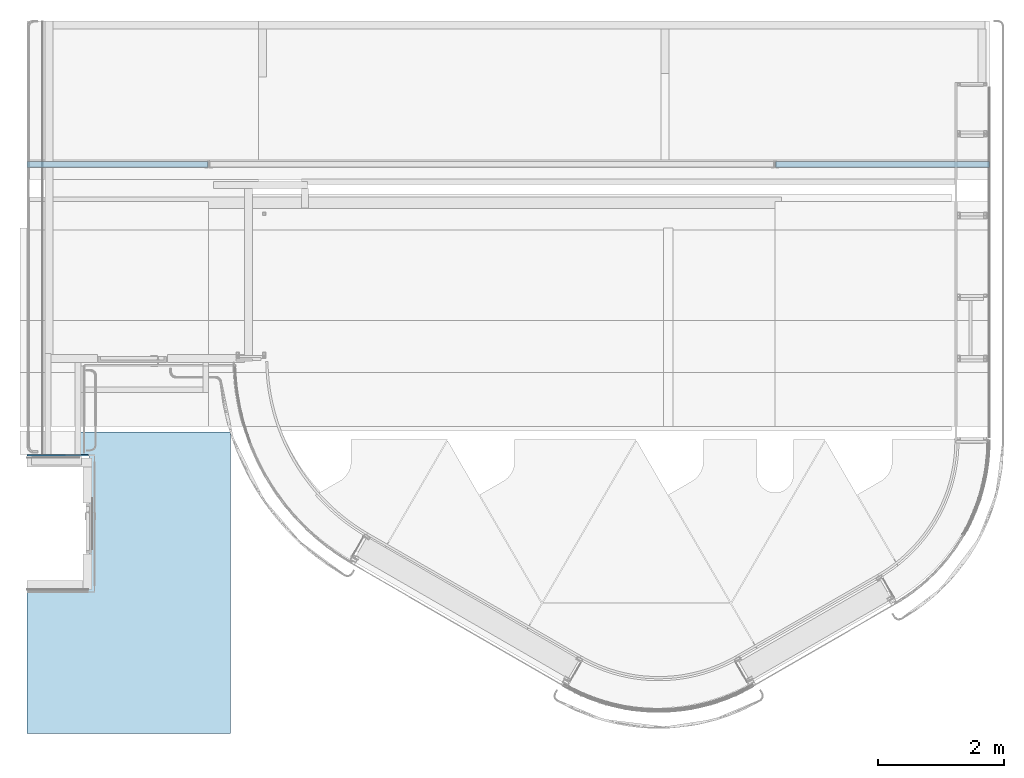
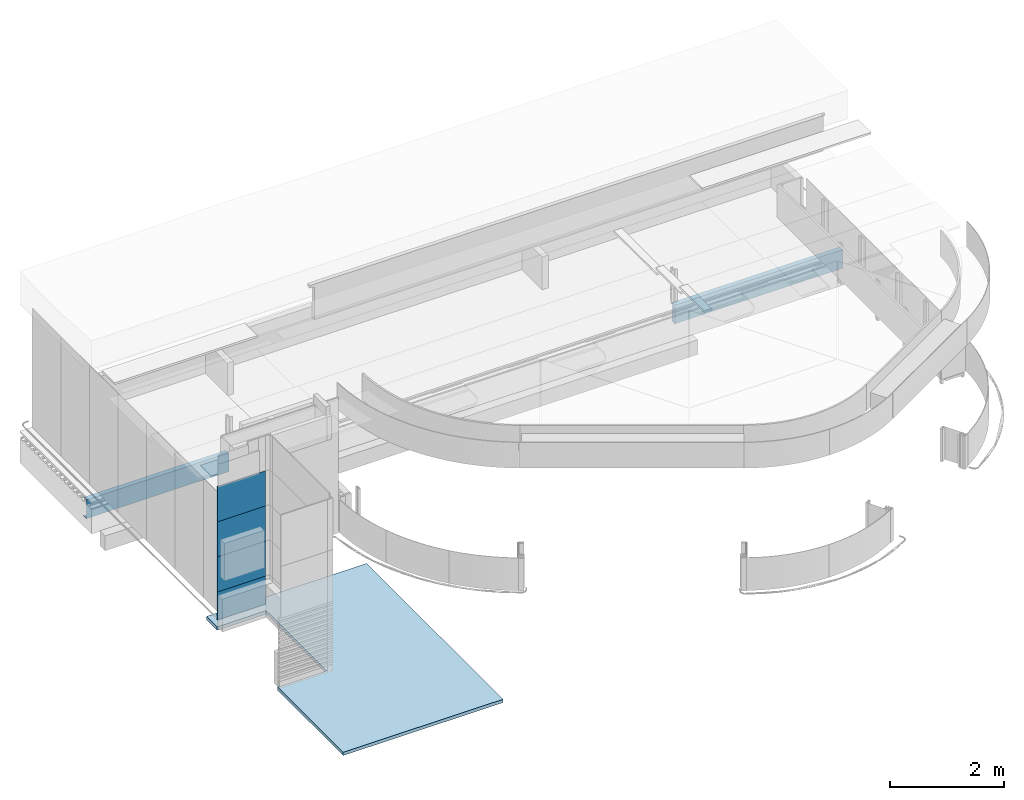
# One storey, part 12 of 18: 4 plates, 2 beams, 1 slab, 1 element without a shape of its own.
"""IFC2X3 building model written with IfcOpenShell, lengths in millimetres."""

import ifcopenshell
import ifcopenshell.guid

model = None  # the IFC model being written
_history = None  # IfcOwnerHistory: only IFC2X3 demands one
_inside = {}  # id of a spatial element -> (the spatial element, [elements in it])
_under = {}  # id of a project, library or spatial element -> (it, [spatial elements below it])
_declared = {}  # id of a project -> (the project, [libraries it declares])
_typed = {}  # id of a type object -> (the type object, [elements of that type])
_made_of = {}  # id of a material, layer set ... -> (it, [elements and type objects made of it])


def new_model(schema):
    """Start an empty IFC model of exactly this schema.

    Asked for "IFC4X3", IfcOpenShell would pick the latest addendum, in which some entities
    have other attributes; the version numbers below select the first issue.
    IFC2X3 requires an IfcOwnerHistory on every rooted entity: one is made here for all.
    """
    global model, _history
    if schema == "IFC4X3":
        model = ifcopenshell.file(schema_version=(4, 3, 0, 0))
    else:
        model = ifcopenshell.file(schema=schema)
    _inside.clear()
    _under.clear()
    _declared.clear()
    _typed.clear()
    _made_of.clear()
    _history = None
    if model.schema == "IFC2X3":
        org = make("IfcOrganization", Name="unknown")
        user = make(
            "IfcPersonAndOrganization",
            ThePerson=make("IfcPerson", FamilyName="unknown"),
            TheOrganization=org,
        )
        app = make(
            "IfcApplication",
            ApplicationDeveloper=org,
            Version="unknown",
            ApplicationFullName="unknown",
            ApplicationIdentifier="unknown",
        )
        _history = make(
            "IfcOwnerHistory",
            OwningUser=user,
            OwningApplication=app,
            ChangeAction="ADDED",
            CreationDate=0,
        )
    return model


def make(cls, **values):
    """One entity of the class cls with the attributes given. An attribute that is None is left unset."""
    return model.create_entity(
        cls, **{name: value for name, value in values.items() if value is not None}
    )


def entity(cls, *values):
    """Any entity or typed value of the class cls, its attributes in the order of the schema. None: left unset."""
    e = model.create_entity(cls)
    for i, value in enumerate(values):
        if value is not None:
            e[i] = value
    return e


def rooted(cls, **values):
    """An entity with a GlobalId (a new one), such as an element, a storey or a relation."""
    return make(cls, GlobalId=ifcopenshell.guid.new(), OwnerHistory=_history, **values)


def si_unit(unit_type, name, prefix=None):
    """IfcSIUnit, for example si_unit("LENGTHUNIT", "METRE", prefix="MILLI")."""
    return make("IfcSIUnit", UnitType=unit_type, Prefix=prefix, Name=name)


def converted_unit(unit_type, name, factor, base, dimensions=None, offset=None):
    """IfcConversionBasedUnit, such as the inch: factor (a typed value) times the base unit."""
    return make(
        "IfcConversionBasedUnit"
        if offset is None
        else "IfcConversionBasedUnitWithOffset",
        ConversionOffset=offset,
        Dimensions=None
        if dimensions is None
        else entity("IfcDimensionalExponents", *dimensions),
        UnitType=unit_type,
        Name=name,
        ConversionFactor=make(
            "IfcMeasureWithUnit", ValueComponent=factor, UnitComponent=base
        ),
    )


def derived_unit(unit_type, elements):
    """IfcDerivedUnit: a product of units, each with its exponent."""
    return make(
        "IfcDerivedUnit",
        Elements=[
            make("IfcDerivedUnitElement", Unit=unit, Exponent=power)
            for unit, power in elements
        ],
        UnitType=unit_type,
    )


def assignment(units):
    """IfcUnitAssignment: the units of a project."""
    return None if units is None else make("IfcUnitAssignment", Units=units)


def point(xyz):
    """IfcCartesianPoint."""
    return None if xyz is None else make("IfcCartesianPoint", Coordinates=xyz)


def direction(xyz):
    """IfcDirection."""
    return None if xyz is None else make("IfcDirection", DirectionRatios=xyz)


def frame(location, z_axis=None, x_axis=None):
    """IfcAxis2Placement3D, a coordinate frame: its origin and axes. An axis left out is left unset."""
    return make(
        "IfcAxis2Placement3D",
        Location=point(location),
        Axis=direction(z_axis),
        RefDirection=direction(x_axis),
    )


def origin_with_axes():
    """The frame at (0, 0, 0) with the z axis (0, 0, 1) and the x axis (1, 0, 0) written out."""
    return frame((0.0, 0.0, 0.0), z_axis=(0.0, 0.0, 1.0), x_axis=(1.0, 0.0, 0.0))


def place(relative_to, where):
    """IfcLocalPlacement: puts the frame where relative to a parent placement (None: the world)."""
    return make(
        "IfcLocalPlacement", PlacementRelTo=relative_to, RelativePlacement=where
    )


def context(
    kind, dimensions, precision=None, world=None, true_north=None, identifier=None
):
    """IfcGeometricRepresentationContext, for example the 3D "Model" context."""
    return make(
        "IfcGeometricRepresentationContext",
        ContextIdentifier=identifier,
        ContextType=kind,
        CoordinateSpaceDimension=dimensions,
        Precision=precision,
        WorldCoordinateSystem=world,
        TrueNorth=true_north,
    )


def subcontext(parent, identifier, kind, view, scale=None):
    """IfcGeometricRepresentationSubContext, for example "Body" below "Model"."""
    return make(
        "IfcGeometricRepresentationSubContext",
        ContextIdentifier=identifier,
        ContextType=kind,
        ParentContext=parent,
        TargetScale=scale,
        TargetView=view,
    )


def project(units=None, contexts=None):
    """IfcProject with its units and contexts."""
    return rooted(
        "IfcProject",
        Name="project",
        RepresentationContexts=contexts,
        UnitsInContext=assignment(units),
    )


def spatial(cls, under=None, at=None, **own):
    """A site, building, storey or space (cls), placed at a placement, below another one or the project."""
    s = rooted(cls, ObjectPlacement=at, **own)
    if under is not None:
        _under.setdefault(under.id(), (under, []))[1].append(s)
    return s


def faces_of(points, faces, orient=None, outer=None):
    """IfcFace entities. A face is a list of loops; a loop is a list of indices into points, from 0.

    orient and outer hold one flag for each loop. By default every Orientation is true, the
    first loop of a face is its IfcFaceOuterBound and the others are IfcFaceBound.
    """
    made = []
    for i, loops in enumerate(faces):
        bounds = []
        for j, loop in enumerate(loops):
            is_outer = j == 0 if outer is None else outer[i][j]
            bounds.append(
                make(
                    "IfcFaceOuterBound" if is_outer else "IfcFaceBound",
                    Bound=make("IfcPolyLoop", Polygon=[points[k] for k in loop]),
                    Orientation=True if orient is None else orient[i][j],
                )
            )
        made.append(make("IfcFace", Bounds=bounds))
    return made


def faceted_brep(points, faces, orient=None, outer=None, voids=None):
    """IfcFacetedBrep: a solid bounded by flat faces; with voids (closed shells), ...WithVoids."""
    shared = [point(p) for p in points]
    hull = make("IfcClosedShell", CfsFaces=faces_of(shared, faces, orient, outer))
    if voids is None:
        return make("IfcFacetedBrep", Outer=hull)
    return make(
        "IfcFacetedBrepWithVoids",
        Outer=hull,
        Voids=[
            make(cls, CfsFaces=faces_of(shared, fs, o, b)) for cls, fs, o, b in voids
        ],
    )


def shape(context_of_items, identifier, shape_type, items):
    """IfcShapeRepresentation: the items that make up one representation, for example the "Body"."""
    return make(
        "IfcShapeRepresentation",
        ContextOfItems=context_of_items,
        RepresentationIdentifier=identifier,
        RepresentationType=shape_type,
        Items=items,
    )


def material(Name=None, Category=None):
    """IfcMaterial."""
    return make("IfcMaterial", Name=Name, Category=Category)


def material_list(materials):
    """IfcMaterialList."""
    return make("IfcMaterialList", Materials=materials)


def layer(
    of_material, thickness, ventilated=None, Name=None, Category=None, Priority=None
):
    """IfcMaterialLayer: one layer of a wall or slab, of a material (None: an air gap)."""
    return make(
        "IfcMaterialLayer",
        Material=of_material,
        LayerThickness=thickness,
        IsVentilated=ventilated,
        Name=Name,
        Category=Category,
        Priority=Priority,
    )


def layer_set(layers, Name=None):
    """IfcMaterialLayerSet."""
    return make("IfcMaterialLayerSet", MaterialLayers=layers, LayerSetName=Name)


def made_of(thing, what):
    """Note that an element or type object is made of a material, layer set ...; save() writes the relation."""
    if what is not None:
        _made_of.setdefault(what.id(), (what, []))[1].append(thing)
    return thing


def type_object(cls, material=None, **own):
    """A type object (cls), such as IfcWallType, which elements share."""
    return made_of(rooted(cls, **own), material)


def element(
    cls,
    number,
    at=None,
    inside=None,
    cuts=None,
    type_object=None,
    material=None,
    context=None,
    identifier="Body",
    shape_type=None,
    held_by="IfcProductDefinitionShape",
    body=None,
    shapes=None,
    **own,
):
    """One element of the class cls, such as IfcWall. Its Tag is "e" and its number.

    at: its placement. inside: the storey or other place that contains it. cuts: it is an
    opening in that element (IfcRelVoidsElement). A single representation is given by context,
    identifier, shape_type and body (its items); several are given by shapes. held_by: the class
    of the entity that holds the representations. save() writes the other relations.
    """
    e = rooted(cls, Tag="e%d" % number, ObjectPlacement=at, **own)
    if body is not None:
        shapes = [shape(context, identifier, shape_type, body)]
    if shapes is not None:
        e.Representation = make(held_by, Representations=shapes)
    if inside is not None:
        _inside.setdefault(inside.id(), (inside, []))[1].append(e)
    if cuts is not None:
        rooted(
            "IfcRelVoidsElement", RelatingBuildingElement=cuts, RelatedOpeningElement=e
        )
    if type_object is not None:
        _typed.setdefault(type_object.id(), (type_object, []))[1].append(e)
    return made_of(e, material)


def aggregate(whole, parts):
    """IfcRelAggregates: a whole, such as a stair, and the parts it consists of."""
    return rooted("IfcRelAggregates", RelatingObject=whole, RelatedObjects=parts)


def save(model, path):
    """Write the relations noted so far, then the file.

    IfcRelAggregates (storeys below a building ...), IfcRelContainedInSpatialStructure (elements
    in a storey), IfcRelDefinesByType, IfcRelAssociatesMaterial and IfcRelDeclares: one each for
    every whole, place, type object, material and project.
    """
    for whole, parts in _under.values():
        aggregate(whole, parts)
    for where, things in _inside.values():
        rooted(
            "IfcRelContainedInSpatialStructure",
            RelatedElements=things,
            RelatingStructure=where,
        )
    for kind, things in _typed.values():
        rooted("IfcRelDefinesByType", RelatedObjects=things, RelatingType=kind)
    for what, things in _made_of.values():
        rooted("IfcRelAssociatesMaterial", RelatedObjects=things, RelatingMaterial=what)
    for by, libraries in _declared.values():
        rooted("IfcRelDeclares", RelatingContext=by, RelatedDefinitions=libraries)
    model.write(path)


model = new_model("IFC2X3")

# Units and contexts
model_context = context("Model", 3, precision=0.01, world=frame((0.0, 4.29681676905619e-09, 0.0)), true_north=direction((4.01073788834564e-13, 1.0)))
plan_context = context("Plan", 3, precision=0.01, world=frame((0.0, 4.29681676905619e-09, 0.0)), true_north=direction((4.01073788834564e-13, 1.0)))
body_context = subcontext(model_context, "Body", "Model", "MODEL_VIEW")
axis_context = subcontext(model_context, "Axis", "Model", "GRAPH_VIEW")
ifc_project = project(units=[converted_unit("PLANEANGLEUNIT", "DEGREE", entity("IfcPositiveLengthMeasure", 0.0174532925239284), si_unit("PLANEANGLEUNIT", "RADIAN"), dimensions=[0, 0, 0, 0, 0, 0, 0]), si_unit("AREAUNIT", "SQUARE_METRE"), si_unit("LENGTHUNIT", "METRE", prefix="MILLI"), si_unit("MASSUNIT", "GRAM", prefix="KILO"), si_unit("POWERUNIT", "WATT"), si_unit("PRESSUREUNIT", "PASCAL"), si_unit("FORCEUNIT", "NEWTON", prefix="KILO"), si_unit("ELECTRICVOLTAGEUNIT", "VOLT"), si_unit("ELECTRICCURRENTUNIT", "AMPERE"), si_unit("THERMODYNAMICTEMPERATUREUNIT", "DEGREE_CELSIUS"), si_unit("TIMEUNIT", "SECOND"), si_unit("VOLUMEUNIT", "CUBIC_METRE"), derived_unit("LINEARVELOCITYUNIT", [(si_unit("LENGTHUNIT", "METRE"), 1), (si_unit("TIMEUNIT", "SECOND"), -1)]), derived_unit("VOLUMETRICFLOWRATEUNIT", [(si_unit("VOLUMEUNIT", "CUBIC_METRE"), 1), (si_unit("TIMEUNIT", "SECOND"), -1)]), derived_unit("THERMALTRANSMITTANCEUNIT", [(si_unit("POWERUNIT", "WATT"), 1), (si_unit("THERMODYNAMICTEMPERATUREUNIT", "KELVIN"), -1), (si_unit("AREAUNIT", "SQUARE_METRE"), -1)]), derived_unit("SOUNDPRESSUREUNIT", [(si_unit("PRESSUREUNIT", "PASCAL"), 1)])], contexts=[model_context, plan_context])

# Site, building, storey
site_placement = place(None, origin_with_axes())
site = spatial("IfcSite", under=ifc_project, at=site_placement, Name="ENGM", CompositionType="ELEMENT")
building_placement = place(site_placement, origin_with_axes())
building = spatial("IfcBuilding", under=site, at=building_placement, Name="TH", CompositionType="ELEMENT")
storey_placement = place(building_placement, frame((0.0, 0.0, 210200.0), z_axis=(0.0, 0.0, 1.0), x_axis=(1.0, 0.0, 0.0)))
storey = spatial("IfcBuildingStorey", under=building, at=storey_placement, Name="Nivå F - 0,7 m", CompositionType="ELEMENT", Elevation=210200.0)

# Beams
ifc_material_1 = material(Name="<Unnamed>")
ifc_material_2 = material(Name="_NSW Stål")
ifc_material_list = material_list([ifc_material_1, ifc_material_2])
beam_type = type_object("IfcBeamType", Name="B223 - Bjelke - eks. pir fasade:B223 - 400x100x8", PredefinedType="BEAM", material=ifc_material_list)
beam_1_placement = place(storey_placement, frame((893499.999999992, 485076.76249997, -260.0), z_axis=(0.0, 0.0, 1.0), x_axis=(-1.0, 0.0, 0.0)))
element("IfcBeam", 1, at=beam_1_placement, inside=storey, type_object=beam_type, Name="B223 - Bjelke - eks. pir fasade:B223 - 400x100x8", ObjectType="B223 - Bjelke - eks. pir fasade:B223 - 400x100x8", context=axis_context, shape_type="Brep", body=[
    faceted_brep([(-4490.0, -50.0, 192.0), (-4482.0, -50.0, 192.0), (-4482.0, -50.0, -192.0), (-4490.0, -50.0, -192.0), (-4482.0, 31.9999999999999, -192.0), (-4490.0, 31.9999999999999, -192.0), (-4482.0, 33.5643446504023, -191.876883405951), (-4490.0, 33.5643446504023, -191.876883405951), (-4482.0, 35.0901699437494, -191.510565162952), (-4490.0, 35.0901699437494, -191.510565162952), (-4482.0, 36.5399049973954, -190.910065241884), (-4490.0, 36.5399049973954, -190.910065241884), (-4482.0, 37.8778525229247, -190.090169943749), (-4490.0, 37.8778525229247, -190.090169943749), (-4482.0, 39.0710678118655, -189.071067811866), (-4490.0, 39.0710678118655, -189.071067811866), (-4482.0, 40.0901699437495, -187.877852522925), (-4490.0, 40.0901699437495, -187.877852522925), (-4482.0, 40.9100652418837, -186.539904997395), (-4490.0, 40.9100652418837, -186.539904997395), (-4482.0, 41.5105651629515, -185.090169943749), (-4490.0, 41.5105651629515, -185.090169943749), (-4482.0, 41.8768834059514, -183.564344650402), (-4490.0, 41.8768834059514, -183.564344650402), (-4482.0, 42.0, -182.0), (-4490.0, 42.0, -182.0), (-4482.0, 42.0, 182.0), (-4490.0, 42.0, 182.0), (-4482.0, 41.8768834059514, 183.564344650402), (-4490.0, 41.8768834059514, 183.564344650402), (-4482.0, 41.5105651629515, 185.09016994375), (-4490.0, 41.5105651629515, 185.09016994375), (-4482.0, 40.9100652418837, 186.539904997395), (-4490.0, 40.9100652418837, 186.539904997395), (-4482.0, 40.0901699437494, 187.877852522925), (-4490.0, 40.0901699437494, 187.877852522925), (-4482.0, 39.0710678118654, 189.071067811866), (-4490.0, 39.0710678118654, 189.071067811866), (-4482.0, 37.8778525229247, 190.09016994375), (-4490.0, 37.8778525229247, 190.09016994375), (-4482.0, 36.5399049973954, 190.910065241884), (-4490.0, 36.5399049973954, 190.910065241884), (-4482.0, 35.0901699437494, 191.510565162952), (-4490.0, 35.0901699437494, 191.510565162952), (-4482.0, 33.5643446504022, 191.876883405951), (-4490.0, 33.5643446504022, 191.876883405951), (-4482.0, 32.0, 192.0), (-4490.0, 32.0, 192.0)], [[[0, 1, 2, 3]], [[3, 2, 4, 5]], [[5, 4, 6, 7]], [[7, 6, 8, 9]], [[9, 8, 10, 11]], [[11, 10, 12, 13]], [[13, 12, 14, 15]], [[15, 14, 16, 17]], [[17, 16, 18, 19]], [[19, 18, 20, 21]], [[21, 20, 22, 23]], [[23, 22, 24, 25]], [[25, 24, 26, 27]], [[27, 26, 28, 29]], [[29, 28, 30, 31]], [[31, 30, 32, 33]], [[33, 32, 34, 35]], [[35, 34, 36, 37]], [[37, 36, 38, 39]], [[39, 38, 40, 41]], [[41, 40, 42, 43]], [[43, 42, 44, 45]], [[45, 44, 46, 47]], [[47, 46, 1, 0]], [[0, 3, 5, 7, 9, 11, 13, 15, 17, 19, 21, 23, 25, 27, 29, 31, 33, 35, 37, 39, 41, 43, 45, 47]], [[2, 1, 46, 44, 42, 40, 38, 36, 34, 32, 30, 28, 26, 24, 22, 20, 18, 16, 14, 12, 10, 8, 6, 4]]], orient=[[False], [False], [False], [False], [False], [False], [False], [False], [False], [False], [False], [False], [False], [False], [False], [False], [False], [False], [False], [False], [False], [False], [False], [False], [False], [False]]),
    faceted_brep([(-1611.90616857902, -50.0000000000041, -200.0), (-1611.90616857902, 49.9999999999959, -200.0), (-4490.0, 49.9999999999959, -200.0), (-4490.0, -50.0000000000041, -200.0), (-1611.90616857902, 49.9999999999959, 200.0), (-4490.0, 49.9999999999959, 200.0), (-1611.90616857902, -50.0000000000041, 200.0), (-4490.0, -50.0000000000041, 200.0), (-1611.90616857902, -50.0000000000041, 192.0), (-4490.0, -50.0000000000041, 192.0), (-1611.90616857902, 31.999999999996, 192.0), (-4490.0, 31.999999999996, 192.0), (-1611.90616857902, 33.7364817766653, 191.848077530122), (-4490.0, 33.7364817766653, 191.848077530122), (-1611.90616857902, 35.4202014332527, 191.396926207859), (-4490.0, 35.4202014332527, 191.396926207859), (-1611.90616857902, 36.999999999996, 190.660254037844), (-4490.0, 36.999999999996, 190.660254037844), (-1611.90616857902, 38.4278760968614, 189.66044443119), (-4490.0, 38.4278760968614, 189.66044443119), (-1611.90616857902, 39.6604444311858, 188.427876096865), (-4490.0, 39.6604444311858, 188.427876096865), (-1611.90616857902, 40.6602540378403, 187.0), (-4490.0, 40.6602540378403, 187.0), (-1611.90616857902, 41.396926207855, 185.420201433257), (-4490.0, 41.396926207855, 185.420201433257), (-1611.90616857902, 41.848077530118, 183.736481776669), (-4490.0, 41.848077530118, 183.736481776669), (-1611.90616857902, 41.9999999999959, 182.0), (-4490.0, 41.9999999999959, 182.0), (-1611.90616857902, 41.9999999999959, -182.0), (-4490.0, 41.9999999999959, -182.0), (-1611.90616857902, 41.848077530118, -183.736481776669), (-4490.0, 41.848077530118, -183.736481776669), (-1611.90616857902, 41.396926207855, -185.420201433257), (-4490.0, 41.396926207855, -185.420201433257), (-1611.90616857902, 40.6602540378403, -187.0), (-4490.0, 40.6602540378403, -187.0), (-1611.90616857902, 39.6604444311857, -188.427876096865), (-4490.0, 39.6604444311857, -188.427876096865), (-1611.90616857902, 38.4278760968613, -189.66044443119), (-4490.0, 38.4278760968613, -189.66044443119), (-1611.90616857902, 36.9999999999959, -190.660254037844), (-4490.0, 36.9999999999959, -190.660254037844), (-1611.90616857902, 35.4202014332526, -191.396926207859), (-4490.0, 35.4202014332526, -191.396926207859), (-1611.90616857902, 33.7364817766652, -191.848077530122), (-4490.0, 33.7364817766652, -191.848077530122), (-1611.90616857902, 31.9999999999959, -192.0), (-4490.0, 31.9999999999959, -192.0), (-1611.90616857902, -50.0000000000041, -192.0), (-4490.0, -50.0000000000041, -192.0)], [[[0, 1, 2, 3]], [[1, 4, 5, 2]], [[4, 6, 7, 5]], [[6, 8, 9, 7]], [[8, 10, 11, 9]], [[10, 12, 13, 11]], [[12, 14, 15, 13]], [[14, 16, 17, 15]], [[16, 18, 19, 17]], [[18, 20, 21, 19]], [[20, 22, 23, 21]], [[22, 24, 25, 23]], [[24, 26, 27, 25]], [[26, 28, 29, 27]], [[28, 30, 31, 29]], [[30, 32, 33, 31]], [[32, 34, 35, 33]], [[34, 36, 37, 35]], [[36, 38, 39, 37]], [[38, 40, 41, 39]], [[40, 42, 43, 41]], [[42, 44, 45, 43]], [[44, 46, 47, 45]], [[46, 48, 49, 47]], [[48, 50, 51, 49]], [[50, 0, 3, 51]], [[3, 2, 5, 7, 9, 11, 13, 15, 17, 19, 21, 23, 25, 27, 29, 31, 33, 35, 37, 39, 41, 43, 45, 47, 49, 51]], [[50, 48, 46, 44, 42, 40, 38, 36, 34, 32, 30, 28, 26, 24, 22, 20, 18, 16, 14, 12, 10, 8, 6, 4, 1, 0]]], orient=[[False], [False], [False], [False], [False], [False], [False], [False], [False], [False], [False], [False], [False], [False], [False], [False], [False], [False], [False], [False], [False], [False], [False], [False], [False], [False], [False], [False]]),
])
beam_2_placement = place(storey_placement, frame((911499.999999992, 485076.76249997, -260.0), z_axis=(0.0, 0.0, 1.0), x_axis=(-1.0, 0.0, 0.0)))
element("IfcBeam", 2, at=beam_2_placement, inside=storey, type_object=beam_type, Name="B223 - Bjelke - eks. pir fasade:B223 - 400x100x8", ObjectType="B223 - Bjelke - eks. pir fasade:B223 - 400x100x8", context=axis_context, shape_type="Brep", body=[
    faceted_brep([(4482.0, -50.0, 192.0), (4490.0, -50.0, 192.0), (4490.0, -50.0, -192.0), (4482.0, -50.0, -192.0), (4490.0, 32.0, -192.0), (4482.0, 32.0, -192.0), (4490.0, 33.7364817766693, -191.848077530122), (4482.0, 33.7364817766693, -191.848077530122), (4490.0, 35.4202014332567, -191.396926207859), (4482.0, 35.4202014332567, -191.396926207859), (4490.0, 37.0, -190.660254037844), (4482.0, 37.0, -190.660254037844), (4490.0, 38.4278760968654, -189.66044443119), (4482.0, 38.4278760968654, -189.66044443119), (4490.0, 39.6604444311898, -188.427876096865), (4482.0, 39.6604444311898, -188.427876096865), (4490.0, 40.6602540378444, -187.0), (4482.0, 40.6602540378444, -187.0), (4490.0, 41.3969262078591, -185.420201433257), (4482.0, 41.3969262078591, -185.420201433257), (4490.0, 41.8480775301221, -183.736481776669), (4482.0, 41.8480775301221, -183.736481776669), (4490.0, 42.0, -182.0), (4482.0, 42.0, -182.0), (4490.0, 42.0, 182.0), (4482.0, 42.0, 182.0), (4490.0, 41.8480775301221, 183.736481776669), (4482.0, 41.8480775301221, 183.736481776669), (4490.0, 41.3969262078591, 185.420201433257), (4482.0, 41.3969262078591, 185.420201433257), (4490.0, 40.6602540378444, 187.0), (4482.0, 40.6602540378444, 187.0), (4490.0, 39.6604444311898, 188.427876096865), (4482.0, 39.6604444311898, 188.427876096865), (4490.0, 38.4278760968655, 189.66044443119), (4482.0, 38.4278760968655, 189.66044443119), (4490.0, 37.0000000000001, 190.660254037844), (4482.0, 37.0000000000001, 190.660254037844), (4490.0, 35.4202014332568, 191.396926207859), (4482.0, 35.4202014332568, 191.396926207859), (4490.0, 33.7364817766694, 191.848077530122), (4482.0, 33.7364817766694, 191.848077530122), (4490.0, 32.0, 192.0), (4482.0, 32.0, 192.0)], [[[0, 1, 2, 3]], [[3, 2, 4, 5]], [[5, 4, 6, 7]], [[7, 6, 8, 9]], [[9, 8, 10, 11]], [[11, 10, 12, 13]], [[13, 12, 14, 15]], [[15, 14, 16, 17]], [[17, 16, 18, 19]], [[19, 18, 20, 21]], [[21, 20, 22, 23]], [[23, 22, 24, 25]], [[25, 24, 26, 27]], [[27, 26, 28, 29]], [[29, 28, 30, 31]], [[31, 30, 32, 33]], [[33, 32, 34, 35]], [[35, 34, 36, 37]], [[37, 36, 38, 39]], [[39, 38, 40, 41]], [[41, 40, 42, 43]], [[43, 42, 1, 0]], [[0, 3, 5, 7, 9, 11, 13, 15, 17, 19, 21, 23, 25, 27, 29, 31, 33, 35, 37, 39, 41, 43]], [[2, 1, 42, 40, 38, 36, 34, 32, 30, 28, 26, 24, 22, 20, 18, 16, 14, 12, 10, 8, 6, 4]]], orient=[[False], [False], [False], [False], [False], [False], [False], [False], [False], [False], [False], [False], [False], [False], [False], [False], [False], [False], [False], [False], [False], [False], [False], [False]]),
    faceted_brep([(1089.41515819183, 49.9999999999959, -200.0), (1089.41515819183, -50.0000000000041, -200.0), (4489.9999999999, -50.0000000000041, -200.0), (4489.9999999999, 49.9999999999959, -200.0), (1089.41515819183, 49.9999999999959, 200.0), (4489.9999999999, 49.9999999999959, 200.0), (1089.41515819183, -50.0000000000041, 200.0), (4489.9999999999, -50.0000000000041, 200.0), (1089.41515819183, -50.0000000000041, 192.0), (4489.9999999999, -50.0000000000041, 192.0), (1089.41515819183, 31.999999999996, 192.0), (4489.9999999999, 31.999999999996, 192.0), (1089.41515819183, 33.7364817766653, 191.848077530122), (4489.9999999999, 33.7364817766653, 191.848077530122), (1089.41515819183, 35.4202014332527, 191.396926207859), (4489.9999999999, 35.4202014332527, 191.396926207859), (1089.41515819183, 36.999999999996, 190.660254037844), (4489.9999999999, 36.999999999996, 190.660254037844), (1089.41515819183, 38.4278760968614, 189.66044443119), (4489.9999999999, 38.4278760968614, 189.66044443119), (1089.41515819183, 39.6604444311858, 188.427876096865), (4489.9999999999, 39.6604444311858, 188.427876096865), (1089.41515819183, 40.6602540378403, 187.0), (4489.9999999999, 40.6602540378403, 187.0), (1089.41515819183, 41.396926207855, 185.420201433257), (4489.9999999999, 41.396926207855, 185.420201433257), (1089.41515819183, 41.848077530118, 183.736481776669), (4489.9999999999, 41.848077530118, 183.736481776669), (1089.41515819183, 41.9999999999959, 182.0), (4489.9999999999, 41.9999999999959, 182.0), (1089.41515819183, 41.9999999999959, -182.0), (4489.9999999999, 41.9999999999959, -182.0), (1089.41515819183, 41.848077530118, -183.736481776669), (4489.9999999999, 41.848077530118, -183.736481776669), (1089.41515819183, 41.396926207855, -185.420201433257), (4489.9999999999, 41.396926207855, -185.420201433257), (1089.41515819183, 40.6602540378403, -187.0), (4489.9999999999, 40.6602540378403, -187.0), (1089.41515819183, 39.6604444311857, -188.427876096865), (4489.9999999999, 39.6604444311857, -188.427876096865), (1089.41515819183, 38.4278760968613, -189.66044443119), (4489.9999999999, 38.4278760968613, -189.66044443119), (1089.41515819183, 36.9999999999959, -190.660254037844), (4489.9999999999, 36.9999999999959, -190.660254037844), (1089.41515819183, 35.4202014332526, -191.396926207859), (4489.9999999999, 35.4202014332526, -191.396926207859), (1089.41515819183, 33.7364817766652, -191.848077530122), (4489.9999999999, 33.7364817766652, -191.848077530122), (1089.41515819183, 31.9999999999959, -192.0), (4489.9999999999, 31.9999999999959, -192.0), (1089.41515819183, -50.0000000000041, -192.0), (4489.9999999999, -50.0000000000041, -192.0)], [[[0, 1, 2, 3]], [[4, 0, 3, 5]], [[6, 4, 5, 7]], [[8, 6, 7, 9]], [[10, 8, 9, 11]], [[12, 10, 11, 13]], [[14, 12, 13, 15]], [[16, 14, 15, 17]], [[18, 16, 17, 19]], [[20, 18, 19, 21]], [[22, 20, 21, 23]], [[24, 22, 23, 25]], [[26, 24, 25, 27]], [[28, 26, 27, 29]], [[30, 28, 29, 31]], [[32, 30, 31, 33]], [[34, 32, 33, 35]], [[36, 34, 35, 37]], [[38, 36, 37, 39]], [[40, 38, 39, 41]], [[42, 40, 41, 43]], [[44, 42, 43, 45]], [[46, 44, 45, 47]], [[48, 46, 47, 49]], [[50, 48, 49, 51]], [[1, 50, 51, 2]], [[3, 2, 51, 49, 47, 45, 43, 41, 39, 37, 35, 33, 31, 29, 27, 25, 23, 21, 19, 17, 15, 13, 11, 9, 7, 5]], [[4, 6, 8, 10, 12, 14, 16, 18, 20, 22, 24, 26, 28, 30, 32, 34, 36, 38, 40, 42, 44, 46, 48, 50, 1, 0]]], orient=[[False], [False], [False], [False], [False], [False], [False], [False], [False], [False], [False], [False], [False], [False], [False], [False], [False], [False], [False], [False], [False], [False], [False], [False], [False], [False], [False], [False]]),
])

# Curtain wall, plates
curtain_wall_type = type_object("IfcCurtainWallType", PredefinedType="NOTDEFINED")
curtain_wall_placement = place(storey_placement, frame((0.0, 0.0, -210200.0), z_axis=(0.0, 0.0, 1.0), x_axis=(1.0, 0.0, 0.0)))
curtain_wall = element("IfcCurtainWall", 3, at=curtain_wall_placement, inside=storey, type_object=curtain_wall_type)
ifc_material_3 = material(Name="Metal - Steel")
plate_type_1 = type_object("IfcPlateType", Name="System Panel:A245 - Metallkasett Inv.20mm - Offset 30mm", PredefinedType="CURTAIN_PANEL", material=ifc_material_3)
plate_1_placement = place(curtain_wall_placement, frame((893499.999999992, 480415.000000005, 210350.0), z_axis=(0.0, 0.0, 1.0), x_axis=(1.0, 0.0, 0.0)))
plate_1 = element("IfcPlate", 4, at=plate_1_placement, type_object=plate_type_1, Name="System Panel:A245 - Metallkasett Inv.20mm - Offset 30mm", ObjectType="System Panel:A245 - Metallkasett Inv.20mm - Offset 30mm", context=body_context, shape_type="Brep", body=[
    faceted_brep([(1611.90616857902, 50.0, -1.08002495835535e-12), (1611.90616857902, 30.0, -1.08002495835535e-12), (2585.00000001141, 30.0, -1.08002495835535e-12), (2585.00000001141, 50.0, -1.08002495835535e-12), (1611.90616857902, 30.0, 600.000000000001), (1611.90616857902, 50.0, 600.000000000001), (2585.00000001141, 50.0, 600.000000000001), (2585.00000001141, 30.0, 600.000000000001)], [[[0, 1, 2, 3]], [[4, 5, 6, 7]], [[7, 6, 3, 2]], [[1, 4, 7, 2]], [[5, 0, 3, 6]], [[5, 4, 1, 0]]], orient=[[False], [False], [False], [False], [False], [False]]),
])
plate_type_2 = type_object("IfcPlateType", Name="System Panel:A245 - Metallkasett Inv.20mm - Offset 30mm", PredefinedType="CURTAIN_PANEL", material=ifc_material_3)
plate_2_placement = place(curtain_wall_placement, frame((893499.999999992, 480415.000000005, 212450.0), z_axis=(0.0, 0.0, 1.0), x_axis=(1.0, 0.0, 0.0)))
plate_2 = element("IfcPlate", 5, at=plate_2_placement, type_object=plate_type_2, Name="System Panel:A245 - Metallkasett Inv.20mm - Offset 30mm", ObjectType="System Panel:A245 - Metallkasett Inv.20mm - Offset 30mm", context=body_context, shape_type="Brep", body=[
    faceted_brep([(1611.90616857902, 50.0, -1.36424205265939e-12), (1611.90616857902, 30.0, -1.36424205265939e-12), (2585.00000001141, 30.0, -1.36424205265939e-12), (2585.00000001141, 50.0, -1.36424205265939e-12), (1611.90616857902, 30.0, 750.000000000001), (1611.90616857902, 50.0, 750.000000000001), (2585.00000001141, 50.0, 750.000000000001), (2585.00000001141, 30.0, 750.000000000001)], [[[0, 1, 2, 3]], [[4, 5, 6, 7]], [[7, 6, 3, 2]], [[1, 4, 7, 2]], [[5, 0, 3, 6]], [[5, 4, 1, 0]]], orient=[[False], [False], [False], [False], [False], [False]]),
])
plate_3_placement = place(curtain_wall_placement, frame((893499.999999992, 480415.000000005, 211700.0), z_axis=(0.0, 0.0, 1.0), x_axis=(1.0, 0.0, 0.0)))
plate_3 = element("IfcPlate", 6, at=plate_3_placement, type_object=plate_type_2, Name="System Panel:A245 - Metallkasett Inv.20mm - Offset 30mm", ObjectType="System Panel:A245 - Metallkasett Inv.20mm - Offset 30mm", context=body_context, shape_type="Brep", body=[
    faceted_brep([(1611.90616857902, 50.0, -1.36424205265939e-12), (1611.90616857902, 30.0, -1.36424205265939e-12), (2585.00000001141, 30.0, -1.36424205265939e-12), (2585.00000001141, 50.0, -1.36424205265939e-12), (1611.90616857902, 30.0, 750.000000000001), (1611.90616857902, 50.0, 750.000000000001), (2585.00000001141, 50.0, 750.000000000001), (2585.00000001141, 30.0, 750.000000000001)], [[[0, 1, 2, 3]], [[4, 5, 6, 7]], [[7, 6, 3, 2]], [[1, 4, 7, 2]], [[5, 0, 3, 6]], [[5, 4, 1, 0]]], orient=[[False], [False], [False], [False], [False], [False]]),
])
plate_4_placement = place(curtain_wall_placement, frame((893499.999999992, 480415.000000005, 210950.0), z_axis=(0.0, 0.0, 1.0), x_axis=(1.0, 0.0, 0.0)))
plate_4 = element("IfcPlate", 7, at=plate_4_placement, type_object=plate_type_2, Name="System Panel:A245 - Metallkasett Inv.20mm - Offset 30mm", ObjectType="System Panel:A245 - Metallkasett Inv.20mm - Offset 30mm", context=body_context, shape_type="Brep", body=[
    faceted_brep([(1611.90616857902, 50.0, -1.36424205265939e-12), (1611.90616857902, 30.0, -1.36424205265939e-12), (2585.00000001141, 30.0, -1.36424205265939e-12), (2585.00000001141, 50.0, -1.36424205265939e-12), (1611.90616857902, 30.0, 750.000000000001), (1611.90616857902, 50.0, 750.000000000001), (2585.00000001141, 50.0, 750.000000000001), (2585.00000001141, 30.0, 750.000000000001)], [[[0, 1, 2, 3]], [[4, 5, 6, 7]], [[7, 6, 3, 2]], [[1, 4, 7, 2]], [[5, 0, 3, 6]], [[5, 4, 1, 0]]], orient=[[False], [False], [False], [False], [False], [False]]),
])
aggregate(curtain_wall, [plate_2, plate_3, plate_4, plate_1])

# Slab
ifc_material_4 = material(Name="T2 - Dekke uten skravur")
ifc_layer = layer(ifc_material_4, 70.0)
ifc_layer_set = layer_set([ifc_layer], Name="Floor:A254  - Gulvoppbygging m_f.o - 70mm - stein")
slab_type = type_object("IfcSlabType", Name="Floor:A254  - Gulvoppbygging m_f.o - 70mm - stein", PredefinedType="FLOOR", material=ifc_layer_set)
slab_placement = place(storey_placement, origin_with_axes())
element("IfcSlab", 8, at=slab_placement, inside=storey, type_object=slab_type, Name="Floor:A254  - Gulvoppbygging m_f.o - 70mm - stein", ObjectType="Floor:A254  - Gulvoppbygging m_f.o - 70mm - stein", PredefinedType="FLOOR", context=body_context, shape_type="Brep", body=[
    faceted_brep([(895111.906168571, 480823.942456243, 0.0), (895111.906168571, 480823.942456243, -69.9999999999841), (898346.698617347, 480823.942456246, -69.9999999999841), (898346.698617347, 480823.942456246, 0.0), (898346.698617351, 476034.676920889, -69.9999999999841), (898346.698617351, 476034.676920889, 0.0), (895111.906168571, 476034.676920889, -1.13686837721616e-13), (895111.906168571, 478336.4424562, -1.59161572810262e-11), (896104.198617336, 478336.4424562, -1.59161572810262e-11), (896104.198617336, 480451.442456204, -1.59161572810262e-11), (895111.906168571, 480451.442456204, -1.59161572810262e-11), (895111.906168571, 480451.442456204, -70.0), (896104.198617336, 480451.442456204, -70.0), (896104.198617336, 478336.4424562, -70.0), (895111.906168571, 478336.4424562, -70.0), (895111.906168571, 476034.676920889, -69.9999999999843)], [[[0, 1, 2, 3]], [[4, 5, 3, 2]], [[5, 6, 7, 8, 9, 10, 0, 3]], [[1, 11, 12, 13, 14, 15, 4, 2]], [[7, 14, 13, 8]], [[12, 9, 8, 13]], [[11, 10, 9, 12]], [[15, 14, 7, 6]], [[10, 11, 1, 0]], [[6, 5, 4, 15]]], orient=[[False], [False], [False], [False], [False], [False], [False], [False], [False], [False]]),
])

save(model, "model.ifc")
